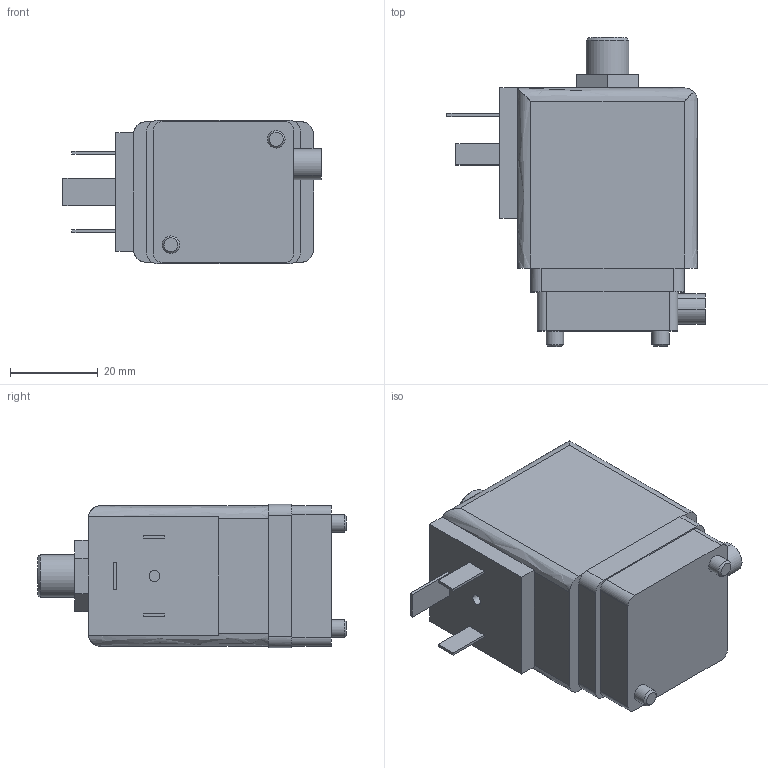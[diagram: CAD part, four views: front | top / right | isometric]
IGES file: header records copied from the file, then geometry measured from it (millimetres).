
Start section: Data from Parasolid IGES Translator 26.0.171, Copyright(c) 2006 Siemens PLM Software. All Rights Reserved.
Global section: file name: 6014-125381-3_2-way_Solenoid_Valve_direct-acting.igs; native system: By Siemens PLM Incorporated; preprocessor: XPlus GENERIC/IGES 26.0.171; author: Noname; organization: Noname; date: 20240812.132016; units: millimetre
Bounding box: 58.75 x 70.3 x 32.6 mm (x, y, z)
Surface area: 11650.6 mm2 (no closed solid volume)
Topology: 0 solids, 0 shells, 79 faces, 398 edges, 395 vertices
Faces by surface type: extrusion 54, revolution 25
